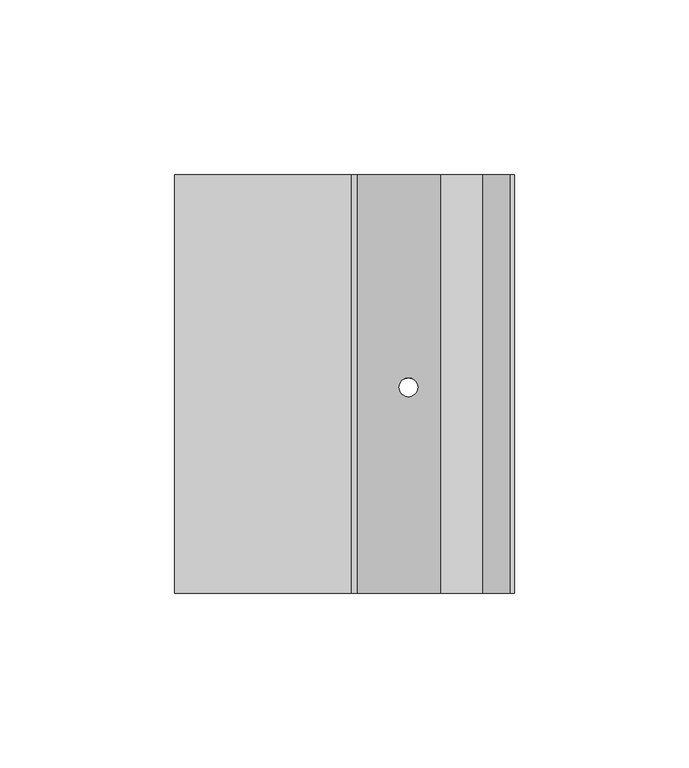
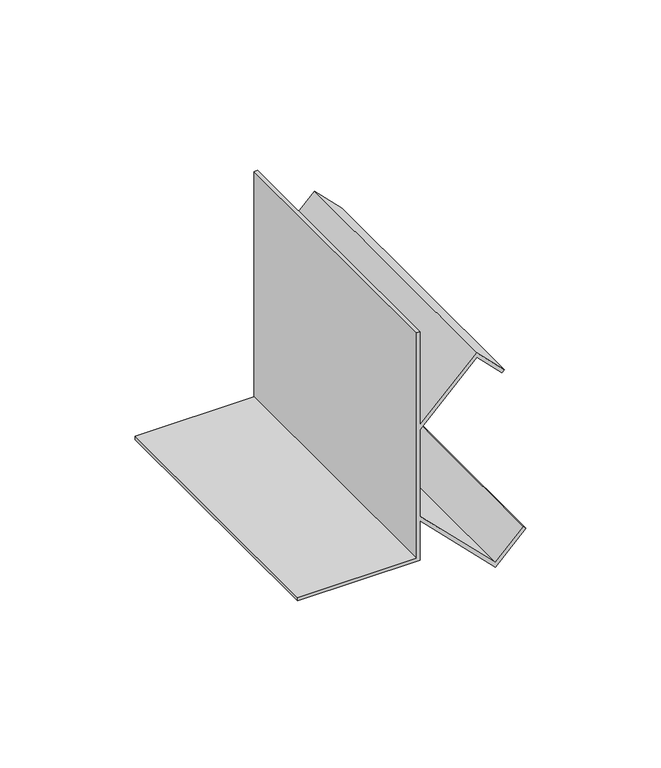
"""IFC4 building model written with IfcOpenShell, lengths in millimetres: proxy geometry, Mechanical Fittings & Accessories35 : Mechanical Fittings & Accessories."""

from ifc_helpers import new_model, si_unit, frame, origin, place, context, project, spatial, polyline, ellipse_curve, source, transform, mapped, element, save
from ifc_brep_helpers import plane_surface, revolved_surface, advanced_brep


def generic_models_49fdf278(model_context):
    return source(origin(), model_context, "Body", "AdvancedBrep", [
        advanced_brep(
        [(-14670.9639562, 5808.4963986, 4114.8), (-14721.7639562, 5808.4963986, 4114.8), (-14721.7639562, 5808.4963986, 4113.3117188), (-14669.475675, 5808.4963986, 4113.3117188), (-14669.475675, 5808.4963986, 4131.1383509), (-14637.365914, 5808.4963986, 4099.0285899), (-14624.3869427, 5808.4963986, 4112.0075612), (-14625.4393164, 5808.4963986, 4113.059935), (-14637.365914, 5808.4963986, 4101.1333374), (-14669.475675, 5808.4963986, 4133.2430984), (-14669.475675, 5808.4963986, 4172.2761118), (-14645.303414, 5808.4963986, 4196.4483729), (-14634.5674414, 5808.4963986, 4185.7124003), (-14633.5150677, 5808.4963986, 4186.7647741), (-14645.303414, 5808.4963986, 4198.5531204), (-14669.475675, 5808.4963986, 4174.3808594), (-14669.475675, 5808.4963986, 4216.4), (-14670.9639562, 5808.4963986, 4216.4), (-14670.9639562, 5928.4645457, 4114.8), (-14670.9639562, 5928.4645457, 4216.4), (-14669.475675, 5928.4645457, 4216.4), (-14669.475675, 5928.4645457, 4174.3808594), (-14645.303414, 5928.4645457, 4198.5531204), (-14633.5150677, 5928.4645457, 4186.7647741), (-14634.5674414, 5928.4645457, 4185.7124003), (-14645.303414, 5928.4645457, 4196.4483729), (-14669.475675, 5928.4645457, 4172.2761118), (-14669.475675, 5928.4645457, 4133.2430984), (-14637.365914, 5928.4645457, 4101.1333374), (-14625.4393164, 5928.4645457, 4113.059935), (-14624.3869427, 5928.4645457, 4112.0075612), (-14637.365914, 5928.4645457, 4099.0285899), (-14669.475675, 5928.4645457, 4131.1383509), (-14669.475675, 5928.4645457, 4113.3117188), (-14721.7639562, 5928.4645457, 4113.3117188), (-14721.7639562, 5928.4645457, 4114.8), (-14657.3617646, 5867.5191481, 4119.0244406), (-14652.0223978, 5867.5191481, 4113.6850737), (-14652.0223978, 5867.5191481, 4115.7898213), (-14657.3617646, 5867.5191481, 4121.1291881), (-14657.3617646, 5867.5191481, 4184.3900222), (-14652.0223978, 5867.5191481, 4189.729389), (-14652.0223978, 5867.5191481, 4191.8341365), (-14657.3617646, 5867.5191481, 4186.4947697)],
        [
            (0, 1),
            (1, 2),
            (2, 3),
            (3, 4),
            (4, 5),
            (5, 6),
            (6, 7),
            (7, 8),
            (8, 9),
            (9, 10),
            (10, 11),
            (11, 12),
            (12, 13),
            (13, 14),
            (14, 15),
            (15, 16),
            (16, 17),
            (17, 0),
            (18, 19),
            (19, 20),
            (20, 21),
            (21, 22),
            (22, 23),
            (23, 24),
            (24, 25),
            (25, 26),
            (26, 27),
            (27, 28),
            (28, 29),
            (29, 30),
            (30, 31),
            (31, 32),
            (32, 33),
            (33, 34),
            (34, 35),
            (35, 18),
            (0, 18),
            (35, 1),
            (34, 2),
            (33, 3),
            (32, 4),
            (31, 5),
            (36, 37, ellipse_curve(frame((-14654.6920812, 5867.5191481, 4116.3547571), z_axis=(0.7071067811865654, 0.0, 0.7071067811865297), x_axis=(-0.7071067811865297, 0.0, 0.7071067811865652)), 3.7755025, 2.6696834)),
            (37, 36, ellipse_curve(frame((-14654.6920812, 5867.5191481, 4116.3547571), z_axis=(0.7071067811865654, 0.0, 0.7071067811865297), x_axis=(-0.7071067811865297, 0.0, 0.7071067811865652)), 3.7755025, 2.6696834)),
            (30, 6),
            (29, 7),
            (28, 8),
            (27, 9),
            (38, 39, ellipse_curve(frame((-14654.6920812, 5867.5191481, 4118.4595047), z_axis=(-0.7071067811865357, 0.0, -0.7071067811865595), x_axis=(-0.7071067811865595, 0.0, 0.7071067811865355)), 3.7755025, 2.6696834)),
            (39, 38, ellipse_curve(frame((-14654.6920812, 5867.5191481, 4118.4595047), z_axis=(-0.7071067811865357, 0.0, -0.7071067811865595), x_axis=(-0.7071067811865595, 0.0, 0.7071067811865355)), 3.7755025, 2.6696834)),
            (26, 10),
            (25, 11),
            (40, 41, ellipse_curve(frame((-14654.6920812, 5867.5191481, 4187.0597056), z_axis=(-0.7071067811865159, 0.0, 0.7071067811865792), x_axis=(0.7071067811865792, 0.0, 0.7071067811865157)), 3.7755025, 2.6696834)),
            (41, 40, ellipse_curve(frame((-14654.6920812, 5867.5191481, 4187.0597056), z_axis=(-0.7071067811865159, 0.0, 0.7071067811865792), x_axis=(0.7071067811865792, 0.0, 0.7071067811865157)), 3.7755025, 2.6696834)),
            (24, 12),
            (23, 13),
            (22, 14),
            (21, 15),
            (42, 43, ellipse_curve(frame((-14654.6920812, 5867.5191481, 4189.1644531), z_axis=(0.7071067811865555, 0.0, -0.7071067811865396), x_axis=(0.7071067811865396, 0.0, 0.7071067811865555)), 3.7755025, 2.6696834)),
            (43, 42, ellipse_curve(frame((-14654.6920812, 5867.5191481, 4189.1644531), z_axis=(0.7071067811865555, 0.0, -0.7071067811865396), x_axis=(0.7071067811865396, 0.0, 0.7071067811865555)), 3.7755025, 2.6696834)),
            (20, 16),
            (19, 17),
            (36, 39),
            (38, 37),
            (40, 43),
            (42, 41),
        ],
        [
            plane_surface(frame((-14721.7639562, 5808.4963986, 4114.8), z_axis=(0.0, -1.0, 0.0), x_axis=(-1.0, 0.0, 0.0))),
            plane_surface(frame((-14721.7639562, 5928.4645457, 4114.8), z_axis=(0.0, 1.0, 0.0), x_axis=(1.0, 0.0, 0.0))),
            plane_surface(frame((-14670.9639562, 5808.4963986, 4114.8), z_axis=(0.0, 0.0, 1.0), x_axis=(0.0, 1.0, 0.0))),
            plane_surface(frame((-14721.7639562, 5808.4963986, 4114.8), z_axis=(-1.0, 0.0, 0.0), x_axis=(0.0, 1.0, 0.0))),
            plane_surface(frame((-14721.7639562, 5808.4963986, 4113.3117188), z_axis=(0.0, 0.0, -1.0), x_axis=(0.0, 1.0, 0.0))),
            plane_surface(frame((-14669.475675, 5808.4963986, 4113.3117188), z_axis=(1.0, 0.0, 0.0), x_axis=(0.0, 1.0, 0.0))),
            plane_surface(frame((-14669.475675, 5808.4963986, 4131.1383509), z_axis=(-0.7071067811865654, 0.0, -0.7071067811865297), x_axis=(0.0, 1.0, 0.0))),
            plane_surface(frame((-14637.365914, 5808.4963986, 4099.0285899), z_axis=(0.7071067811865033, 0.0, -0.7071067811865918), x_axis=(0.0, 1.0, 0.0))),
            plane_surface(frame((-14624.3869427, 5808.4963986, 4112.0075612), z_axis=(0.7071067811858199, 0.0, 0.7071067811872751), x_axis=(0.0, 1.0, 0.0))),
            plane_surface(frame((-14625.4393164, 5808.4963986, 4113.059935), z_axis=(-0.7071067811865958, 0.0, 0.7071067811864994), x_axis=(0.0, 1.0, 0.0))),
            plane_surface(frame((-14637.365914, 5808.4963986, 4101.1333374), z_axis=(0.7071067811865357, 0.0, 0.7071067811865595), x_axis=(0.0, 1.0, 0.0))),
            plane_surface(frame((-14669.475675, 5808.4963986, 4133.2430984), z_axis=(1.0, 0.0, 0.0), x_axis=(0.0, 1.0, 0.0))),
            plane_surface(frame((-14669.475675, 5808.4963986, 4172.2761118), z_axis=(0.7071067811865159, 0.0, -0.7071067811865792), x_axis=(0.0, 1.0, 0.0))),
            plane_surface(frame((-14645.303414, 5808.4963986, 4196.4483729), z_axis=(-0.7071067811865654, 0.0, -0.7071067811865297), x_axis=(0.0, 1.0, 0.0))),
            plane_surface(frame((-14634.5674414, 5808.4963986, 4185.7124003), z_axis=(0.7071067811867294, 0.0, -0.7071067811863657), x_axis=(0.0, 1.0, 0.0))),
            plane_surface(frame((-14633.5150677, 5808.4963986, 4186.7647741), z_axis=(0.7071067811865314, 0.0, 0.7071067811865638), x_axis=(0.0, 1.0, 0.0))),
            plane_surface(frame((-14645.303414, 5808.4963986, 4198.5531204), z_axis=(-0.7071067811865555, 0.0, 0.7071067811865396), x_axis=(0.0, 1.0, 0.0))),
            plane_surface(frame((-14669.475675, 5808.4963986, 4174.3808594), z_axis=(1.0, 0.0, 0.0), x_axis=(0.0, 1.0, 0.0))),
            plane_surface(frame((-14669.475675, 5808.4963986, 4216.4), z_axis=(0.0, 0.0, 1.0), x_axis=(0.0, 1.0, 0.0))),
            plane_surface(frame((-14670.9639562, 5808.4963986, 4216.4), z_axis=(-1.0, 0.0, 0.0), x_axis=(0.0, 1.0, 0.0))),
            revolved_surface(polyline([(-14652.022397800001, 5867.5191481, 4121.129188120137), (-14652.022397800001, 5867.5191481, 4113.685073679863)]), (-14654.6920812, 5867.5191481, 4097.2034211), (0.0, 0.0, 1.0)),
            revolved_surface(polyline([(-14652.022397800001, 5867.5191481, 4191.834136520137), (-14652.022397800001, 5867.5191481, 4184.390022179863)]), (-14654.6920812, 5867.5191481, 4097.2034211), (0.0, 0.0, 1.0)),
        ],
        [
            (0, [[1, 2, 3, 4, 5, 6, 7, 8, 9, 10, 11, 12, 13, 14, 15, 16, 17, 18]]),
            (1, [[19, 20, 21, 22, 23, 24, 25, 26, 27, 28, 29, 30, 31, 32, 33, 34, 35, 36]]),
            (2, [[-1, 37, -36, 38]]),
            (3, [[-2, -38, -35, 39]]),
            (4, [[-3, -39, -34, 40]]),
            (5, [[-4, -40, -33, 41]]),
            (6, [[-5, -41, -32, 42], [43, 44]]),
            (7, [[-6, -42, -31, 45]]),
            (8, [[-7, -45, -30, 46]]),
            (9, [[-8, -46, -29, 47]]),
            (10, [[-9, -47, -28, 48], [49, 50]]),
            (11, [[-10, -48, -27, 51]]),
            (12, [[-11, -51, -26, 52], [53, 54]]),
            (13, [[-12, -52, -25, 55]]),
            (14, [[-13, -55, -24, 56]]),
            (15, [[-14, -56, -23, 57]]),
            (16, [[-15, -57, -22, 58], [59, 60]]),
            (17, [[-16, -58, -21, 61]]),
            (18, [[-17, -61, -20, 62]]),
            (19, [[-18, -62, -19, -37]]),
            (20, [[63, -49, 64, -43]]),
            (21, [[65, -59, 66, -53]]),
            (20, [[-63, -44, -64, -50]]),
            (21, [[-65, -54, -66, -60]]),
        ],
    ),
    ])


if __name__ == "__main__":
    model = new_model("IFC4")
    model_context = context("Model", 3, world=origin())
    ifc_project = project(units=[si_unit("LENGTHUNIT", "METRE", prefix="MILLI")], contexts=[model_context])
    site = spatial("IfcSite", under=ifc_project)
    building = spatial("IfcBuilding", under=site)
    placement = place(None, origin())
    generic_models_shape = generic_models_49fdf278(model_context)
    element("IfcBuildingElementProxy", 1, Name="Mechanical Fittings & Accessories35 : Mechanical Fittings & Accessories", ObjectType="Mechanical Fittings & Accessories35 : Mechanical Fittings & Accessories", at=placement, inside=building, context=model_context, shape_type="MappedRepresentation", body=[
        mapped(generic_models_shape, transform((0.0, 0.0, 0.0), x_axis=(1.0, 0.0, 0.0), y_axis=(0.0, 1.0, 0.0), z_axis=(0.0, 0.0, 1.0))),
    ])
    save(model, "model.ifc")
